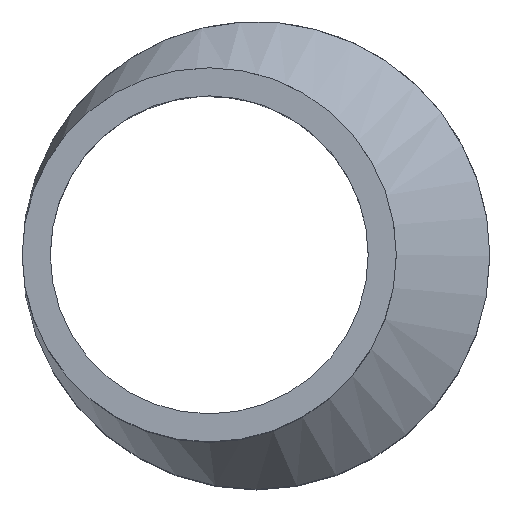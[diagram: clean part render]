
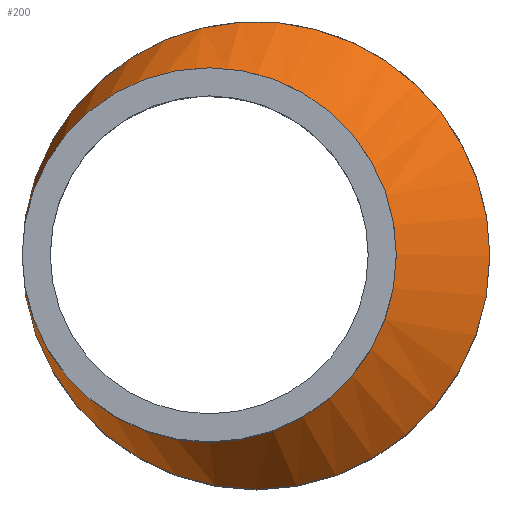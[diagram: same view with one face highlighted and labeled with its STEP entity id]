
A CAD part, top view. The second image highlights one B-rep face of the part: STEP entity #200.
In plain terms, the highlighted free-form (B-spline) face has degree [1, 2] with [2, 9] control points.
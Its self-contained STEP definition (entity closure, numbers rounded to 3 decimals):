
#15=B_SPLINE_CURVE_WITH_KNOTS($,1,(#381,#382),.UNSPECIFIED.,.F.,.F.,(2,
2),(-0.416,0.),.UNSPECIFIED.);
#17=(
BOUNDED_SURFACE()
B_SPLINE_SURFACE(1,2,((#359,#360,#361,#362,#363,#364,#365,#366,#367),(#368,
#369,#370,#371,#372,#373,#374,#375,#376)),.UNSPECIFIED.,.F.,.T.,.F.)
B_SPLINE_SURFACE_WITH_KNOTS((2,2),(3,2,2,2,3),(-0.625,0.74),
(-3.142,-1.571,0.,1.571,3.142),
 .UNSPECIFIED.)
GEOMETRIC_REPRESENTATION_ITEM()
RATIONAL_B_SPLINE_SURFACE(((1.,0.707,1.,0.707,1.,
0.707,1.,0.707,1.),(1.,0.707,1.,0.707,
1.,0.707,1.,0.707,1.)))
REPRESENTATION_ITEM($)
SURFACE()
);
#47=FACE_OUTER_BOUND($,#67,.T.);
#67=EDGE_LOOP($,(#157,#158,#159,#160,#161,#162));
#83=CIRCLE($,#221,25.);
#84=CIRCLE($,#222,25.);
#91=CIRCLE($,#231,20.);
#92=CIRCLE($,#232,20.);
#101=VERTEX_POINT($,#321);
#102=VERTEX_POINT($,#322);
#109=VERTEX_POINT($,#377);
#110=VERTEX_POINT($,#378);
#119=EDGE_CURVE($,#101,#102,#83,.T.);
#120=EDGE_CURVE($,#102,#101,#84,.T.);
#128=EDGE_CURVE($,#109,#110,#91,.T.);
#129=EDGE_CURVE($,#110,#109,#92,.T.);
#130=EDGE_CURVE($,#110,#102,#15,.T.);
#157=ORIENTED_EDGE($,*,*,#128,.F.);
#158=ORIENTED_EDGE($,*,*,#129,.F.);
#159=ORIENTED_EDGE($,*,*,#130,.T.);
#160=ORIENTED_EDGE($,*,*,#119,.F.);
#161=ORIENTED_EDGE($,*,*,#120,.F.);
#162=ORIENTED_EDGE($,*,*,#130,.F.);
#200=ADVANCED_FACE($,(#47),#17,.F.);
#221=AXIS2_PLACEMENT_3D($,#323,#266,#267);
#222=AXIS2_PLACEMENT_3D($,#324,#268,#269);
#231=AXIS2_PLACEMENT_3D($,#379,#286,#287);
#232=AXIS2_PLACEMENT_3D($,#380,#288,#289);
#266=DIRECTION('center_axis',(0.,0.,-1.));
#267=DIRECTION('ref_axis',(-1.,0.,0.));
#268=DIRECTION('center_axis',(0.,0.,-1.));
#269=DIRECTION('ref_axis',(-1.,0.,0.));
#286=DIRECTION('center_axis',(0.,0.,1.));
#287=DIRECTION('ref_axis',(-1.,0.,0.));
#288=DIRECTION('center_axis',(0.,0.,1.));
#289=DIRECTION('ref_axis',(-1.,0.,0.));
#321=CARTESIAN_POINT('',(25.,0.,37.));
#322=CARTESIAN_POINT('',(-5.775,24.324,37.));
#323=CARTESIAN_POINT('Origin',(0.,0.,37.));
#324=CARTESIAN_POINT('Origin',(0.,0.,37.));
#359=CARTESIAN_POINT('Ctrl Pts',(0.,31.63,
24.984));
#360=CARTESIAN_POINT('Ctrl Pts',(-25.,31.63,12.969));
#361=CARTESIAN_POINT('Ctrl Pts',(-25.,0.,12.969));
#362=CARTESIAN_POINT('Ctrl Pts',(-25.,-31.63,12.969));
#363=CARTESIAN_POINT('Ctrl Pts',(0.,-31.63,
24.984));
#364=CARTESIAN_POINT('Ctrl Pts',(25.,-31.63,37.));
#365=CARTESIAN_POINT('Ctrl Pts',(25.,0.,37.));
#366=CARTESIAN_POINT('Ctrl Pts',(25.,31.63,37.));
#367=CARTESIAN_POINT('Ctrl Pts',(0.,31.63,
24.984));
#368=CARTESIAN_POINT('Ctrl Pts',(-12.611,15.675,51.223));
#369=CARTESIAN_POINT('Ctrl Pts',(-25.,15.675,45.268));
#370=CARTESIAN_POINT('Ctrl Pts',(-25.,0.,45.268));
#371=CARTESIAN_POINT('Ctrl Pts',(-25.,-15.675,45.268));
#372=CARTESIAN_POINT('Ctrl Pts',(-12.611,-15.675,51.223));
#373=CARTESIAN_POINT('Ctrl Pts',(-0.222,-15.675,57.177));
#374=CARTESIAN_POINT('Ctrl Pts',(-0.222,0.,
57.177));
#375=CARTESIAN_POINT('Ctrl Pts',(-0.222,15.675,57.177));
#376=CARTESIAN_POINT('Ctrl Pts',(-12.611,15.675,51.223));
#377=CARTESIAN_POINT('',(15.,0.,45.));
#378=CARTESIAN_POINT('',(-9.62,19.459,45.));
#379=CARTESIAN_POINT('Origin',(-5.,0.,45.));
#380=CARTESIAN_POINT('Origin',(-5.,0.,45.));
#381=CARTESIAN_POINT('Ctrl Pts',(-9.62,19.459,45.));
#382=CARTESIAN_POINT('Ctrl Pts',(-5.775,24.324,37.));
